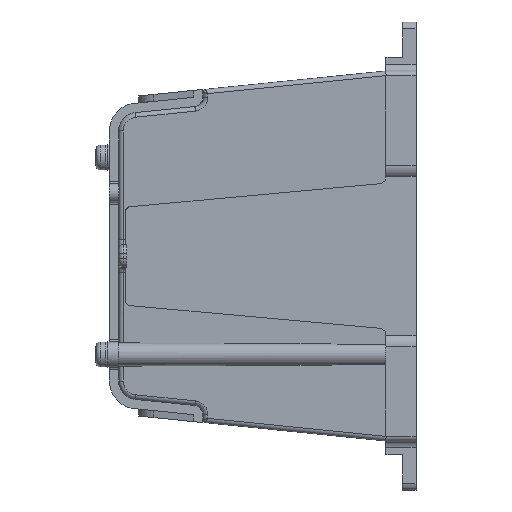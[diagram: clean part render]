
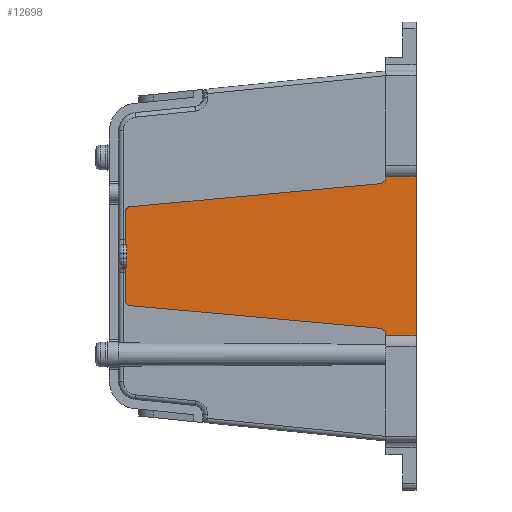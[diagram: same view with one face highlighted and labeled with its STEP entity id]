
A CAD part, left-side view. The second image highlights one B-rep face of the part: STEP entity #12698.
In plain terms, the highlighted planar face has unit normal (-1, 0, 0).
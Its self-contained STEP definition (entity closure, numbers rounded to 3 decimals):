
#946=LINE('',#20853,#2072);
#949=LINE('',#20857,#2075);
#972=LINE('',#21008,#2098);
#980=LINE('',#21031,#2106);
#988=LINE('',#21051,#2114);
#1018=LINE('',#21189,#2144);
#1022=LINE('',#21201,#2148);
#1024=LINE('',#21209,#2150);
#1139=LINE('',#21532,#2265);
#1144=LINE('',#21549,#2270);
#1147=LINE('',#21558,#2273);
#1148=LINE('',#21560,#2274);
#2072=VECTOR('',#16503,1000.);
#2075=VECTOR('',#16508,1000.);
#2098=VECTOR('',#16583,1000.);
#2106=VECTOR('',#16599,1000.);
#2114=VECTOR('',#16619,1000.);
#2144=VECTOR('',#16741,1000.);
#2148=VECTOR('',#16753,1000.);
#2150=VECTOR('',#16763,1000.);
#2265=VECTOR('',#17058,1000.);
#2270=VECTOR('',#17073,1000.);
#2273=VECTOR('',#17084,1000.);
#2274=VECTOR('',#17085,1000.);
#5299=ORIENTED_EDGE('',*,*,#8005,.F.);
#5300=ORIENTED_EDGE('',*,*,#7721,.F.);
#5301=ORIENTED_EDGE('',*,*,#7718,.F.);
#5302=ORIENTED_EDGE('',*,*,#7837,.F.);
#5303=ORIENTED_EDGE('',*,*,#7839,.F.);
#5304=ORIENTED_EDGE('',*,*,#7843,.F.);
#5305=ORIENTED_EDGE('',*,*,#7845,.F.);
#5306=ORIENTED_EDGE('',*,*,#7847,.F.);
#5307=ORIENTED_EDGE('',*,*,#7772,.F.);
#5308=ORIENTED_EDGE('',*,*,#7761,.F.);
#5309=ORIENTED_EDGE('',*,*,#7782,.T.);
#5310=ORIENTED_EDGE('',*,*,#7992,.F.);
#5311=ORIENTED_EDGE('',*,*,#7997,.F.);
#5312=ORIENTED_EDGE('',*,*,#8000,.F.);
#5313=ORIENTED_EDGE('',*,*,#8003,.F.);
#5314=ORIENTED_EDGE('',*,*,#8006,.F.);
#7718=EDGE_CURVE('',#9278,#9276,#946,.T.);
#7721=EDGE_CURVE('',#9276,#9279,#949,.T.);
#7761=EDGE_CURVE('',#9303,#9304,#972,.T.);
#7772=EDGE_CURVE('',#9304,#9311,#980,.T.);
#7782=EDGE_CURVE('',#9303,#9319,#988,.T.);
#7837=EDGE_CURVE('',#9351,#9278,#1018,.T.);
#7839=EDGE_CURVE('',#9353,#9351,#10182,.T.);
#7843=EDGE_CURVE('',#9355,#9353,#1022,.T.);
#7845=EDGE_CURVE('',#9357,#9355,#10183,.T.);
#7847=EDGE_CURVE('',#9311,#9357,#1024,.T.);
#7992=EDGE_CURVE('',#9416,#9319,#1139,.T.);
#7997=EDGE_CURVE('',#9420,#9416,#10192,.T.);
#8000=EDGE_CURVE('',#9422,#9420,#1144,.T.);
#8003=EDGE_CURVE('',#9424,#9422,#10193,.T.);
#8005=EDGE_CURVE('',#9279,#9425,#1147,.T.);
#8006=EDGE_CURVE('',#9425,#9424,#1148,.T.);
#9276=VERTEX_POINT('',#20848);
#9278=VERTEX_POINT('',#20852);
#9279=VERTEX_POINT('',#20858);
#9303=VERTEX_POINT('',#21009);
#9304=VERTEX_POINT('',#21010);
#9311=VERTEX_POINT('',#21025);
#9319=VERTEX_POINT('',#21050);
#9351=VERTEX_POINT('',#21188);
#9353=VERTEX_POINT('',#21193);
#9355=VERTEX_POINT('',#21200);
#9357=VERTEX_POINT('',#21205);
#9416=VERTEX_POINT('',#21533);
#9420=VERTEX_POINT('',#21542);
#9422=VERTEX_POINT('',#21548);
#9424=VERTEX_POINT('',#21554);
#9425=VERTEX_POINT('',#21559);
#10182=CIRCLE('',#13815,1.5);
#10183=CIRCLE('',#13819,1.);
#10192=CIRCLE('',#13914,1.);
#10193=CIRCLE('',#13918,1.5);
#10833=EDGE_LOOP('',(#5299,#5300,#5301,#5302,#5303,#5304,#5305,#5306,#5307,
#5308,#5309,#5310,#5311,#5312,#5313,#5314));
#11619=FACE_BOUND('',#10833,.T.);
#12091=PLANE('',#13920);
#12698=ADVANCED_FACE('',(#11619),#12091,.F.);
#13815=AXIS2_PLACEMENT_3D('',#21194,#16745,#16746);
#13819=AXIS2_PLACEMENT_3D('',#21206,#16757,#16758);
#13914=AXIS2_PLACEMENT_3D('',#21543,#17066,#17067);
#13918=AXIS2_PLACEMENT_3D('',#21555,#17078,#17079);
#13920=AXIS2_PLACEMENT_3D('',#21557,#17082,#17083);
#16503=DIRECTION('',(0.,-1.,0.));
#16508=DIRECTION('',(0.,0.,-1.));
#16583=DIRECTION('',(0.,0.,1.));
#16599=DIRECTION('',(0.,1.,0.));
#16619=DIRECTION('',(0.,1.,0.));
#16741=DIRECTION('',(0.,0.,1.));
#16745=DIRECTION('',(-1.,0.,0.));
#16746=DIRECTION('',(0.,1.,0.));
#16753=DIRECTION('',(0.,-0.996,0.092));
#16757=DIRECTION('',(1.,0.,0.));
#16758=DIRECTION('',(0.,1.,0.));
#16763=DIRECTION('',(0.,0.,1.));
#17058=DIRECTION('',(0.,0.,1.));
#17066=DIRECTION('',(1.,0.,0.));
#17067=DIRECTION('',(0.,-1.,0.));
#17073=DIRECTION('',(0.,0.996,0.09));
#17078=DIRECTION('',(-1.,0.,0.));
#17079=DIRECTION('',(0.,1.,0.));
#17082=DIRECTION('',(1.,0.,0.));
#17083=DIRECTION('',(0.,0.,-1.));
#17084=DIRECTION('',(0.,1.,0.));
#17085=DIRECTION('',(0.,0.,1.));
#20848=CARTESIAN_POINT('',(35.475,0.,17.2));
#20852=CARTESIAN_POINT('',(35.475,6.5,17.2));
#20853=CARTESIAN_POINT('',(35.475,0.,17.2));
#20857=CARTESIAN_POINT('',(35.475,0.,-17.2));
#20858=CARTESIAN_POINT('',(35.475,0.,-17.2));
#21008=CARTESIAN_POINT('',(35.475,62.6,-9.723));
#21009=CARTESIAN_POINT('',(35.475,62.6,-2.5));
#21010=CARTESIAN_POINT('',(35.475,62.6,2.5));
#21025=CARTESIAN_POINT('',(35.475,62.8,2.5));
#21031=CARTESIAN_POINT('',(35.475,62.6,2.5));
#21050=CARTESIAN_POINT('',(35.475,62.8,-2.5));
#21051=CARTESIAN_POINT('',(35.475,62.6,-2.5));
#21188=CARTESIAN_POINT('',(35.475,6.5,17.118));
#21189=CARTESIAN_POINT('',(35.475,6.5,17.118));
#21193=CARTESIAN_POINT('',(35.475,7.862,15.624));
#21194=CARTESIAN_POINT('',(35.475,8.,17.118));
#21200=CARTESIAN_POINT('',(35.475,61.892,10.647));
#21201=CARTESIAN_POINT('',(35.475,7.862,15.624));
#21205=CARTESIAN_POINT('',(35.475,62.8,9.651));
#21206=CARTESIAN_POINT('',(35.475,61.8,9.651));
#21209=CARTESIAN_POINT('',(35.475,62.8,-9.723));
#21532=CARTESIAN_POINT('',(35.475,62.8,-9.723));
#21533=CARTESIAN_POINT('',(35.475,62.8,-9.723));
#21542=CARTESIAN_POINT('',(35.475,61.89,-10.719));
#21543=CARTESIAN_POINT('',(35.475,61.8,-9.723));
#21548=CARTESIAN_POINT('',(35.475,7.864,-15.626));
#21549=CARTESIAN_POINT('',(35.475,7.864,-15.626));
#21554=CARTESIAN_POINT('',(35.475,6.5,-17.12));
#21555=CARTESIAN_POINT('',(35.475,8.,-17.12));
#21557=CARTESIAN_POINT('',(35.475,61.8,-9.723));
#21558=CARTESIAN_POINT('',(35.475,0.,-17.2));
#21559=CARTESIAN_POINT('',(35.475,6.5,-17.2));
#21560=CARTESIAN_POINT('',(35.475,6.5,-17.12));
